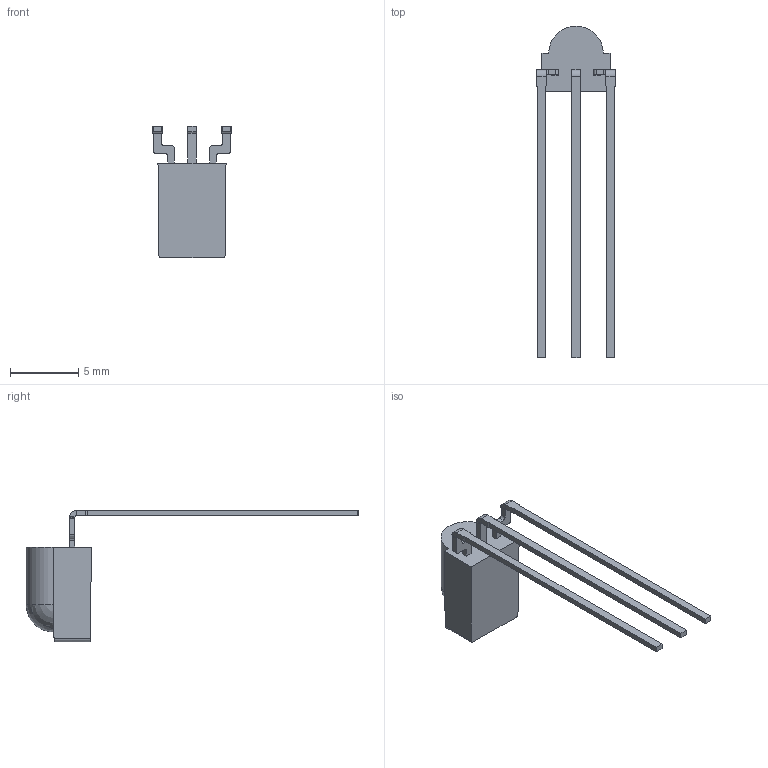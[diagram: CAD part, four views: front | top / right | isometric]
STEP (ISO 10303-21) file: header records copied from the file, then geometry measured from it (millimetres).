
FILE_DESCRIPTION((''),'2;1');
FILE_NAME('C:\temp\Hauschildt\3D-files\Minicast\Minicast_SB.stp','2014-05-22T14:09:45',('gobenland'),(''),'Autodesk Inventor 2013','Autodesk Inventor 2013','');
FILE_SCHEMA(('AUTOMOTIVE_DESIGN { 1 0 10303 214 1 1 1 1 }'));
Length unit declared in the file: millimetre
Products named in the file (3): GO-100187.7; GO-100187; GO-100187.07
Assembly tree (2 placements, depth 2):
  GO-100187.7
    GO-100187
    GO-100187.07
Bounding box: 5.78 x 24.4 x 9.65 mm (x, y, z)
Volume: 147 mm3; surface area: 301.7 mm2
Topology: 4 solids, 4 shells, 95 faces, 241 edges, 152 vertices
Faces by surface type: plane 58, cylinder 30, bspline 6, sphere 1
Entity records: 3882 total; most frequent: CARTESIAN_POINT 1505, ORIENTED_EDGE 478, DIRECTION 475, EDGE_CURVE 239, VECTOR 167, LINE 167, AXIS2_PLACEMENT_3D 154, VERTEX_POINT 152
